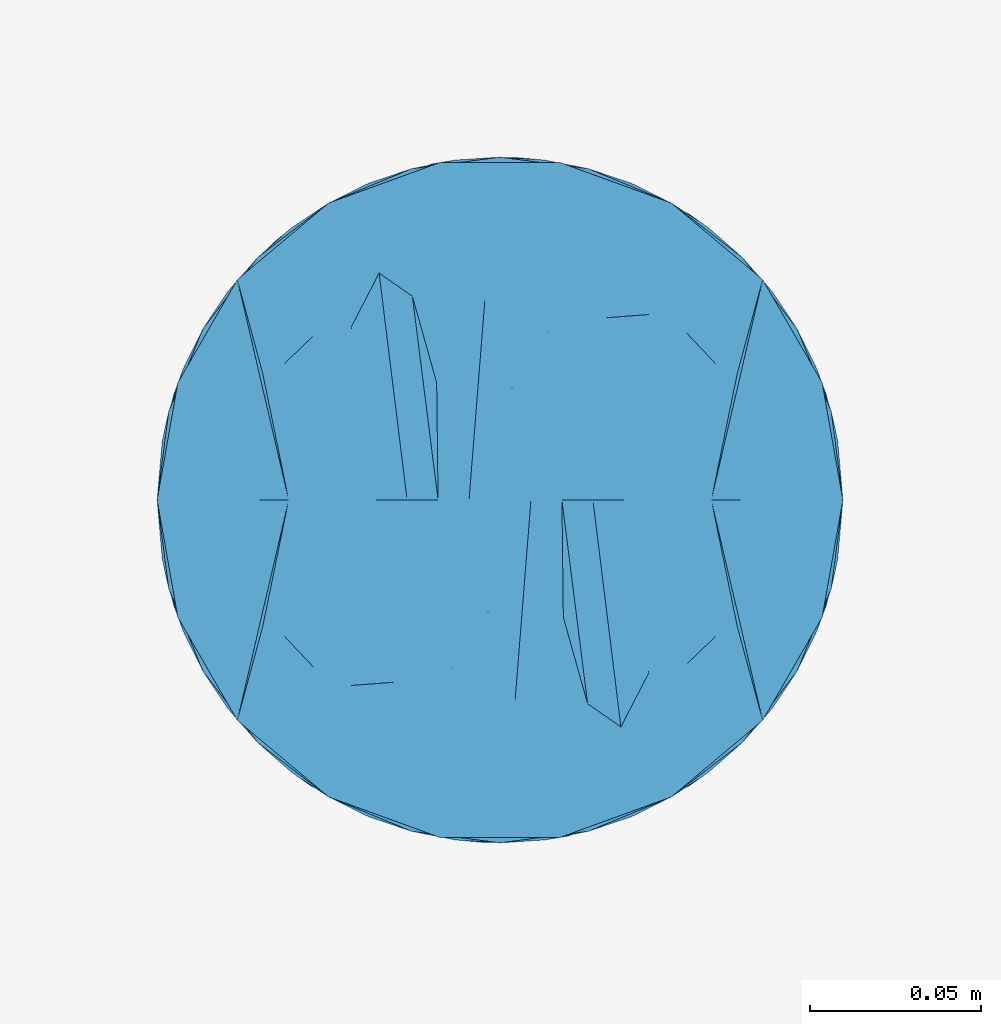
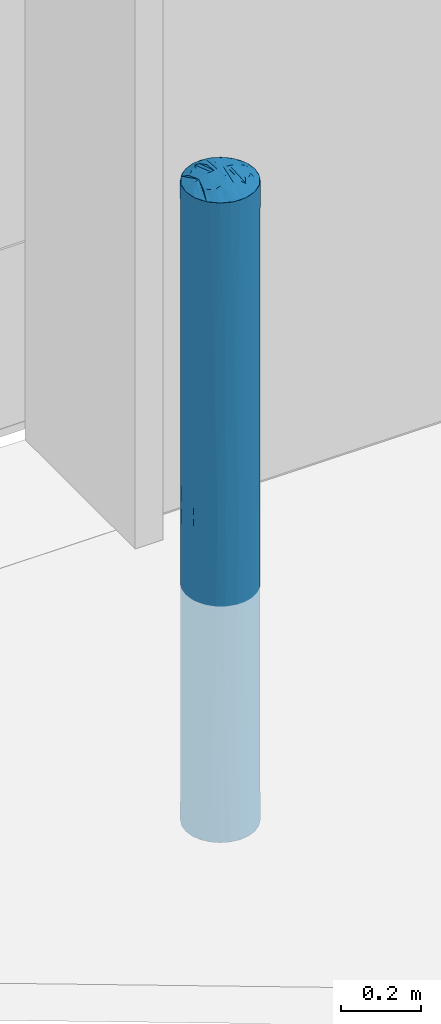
# One storey, part 47 of 77: 1 discrete accessory.
"""IFC2X3 building model written with IfcOpenShell, lengths in millimetres."""

import ifcopenshell
import ifcopenshell.guid

model = None  # the IFC model being written
_history = None  # IfcOwnerHistory: only IFC2X3 demands one
_inside = {}  # id of a spatial element -> (the spatial element, [elements in it])
_under = {}  # id of a project, library or spatial element -> (it, [spatial elements below it])
_declared = {}  # id of a project -> (the project, [libraries it declares])
_typed = {}  # id of a type object -> (the type object, [elements of that type])
_made_of = {}  # id of a material, layer set ... -> (it, [elements and type objects made of it])


def new_model(schema):
    """Start an empty IFC model of exactly this schema.

    Asked for "IFC4X3", IfcOpenShell would pick the latest addendum, in which some entities
    have other attributes; the version numbers below select the first issue.
    IFC2X3 requires an IfcOwnerHistory on every rooted entity: one is made here for all.
    """
    global model, _history
    if schema == "IFC4X3":
        model = ifcopenshell.file(schema_version=(4, 3, 0, 0))
    else:
        model = ifcopenshell.file(schema=schema)
    _inside.clear()
    _under.clear()
    _declared.clear()
    _typed.clear()
    _made_of.clear()
    _history = None
    if model.schema == "IFC2X3":
        org = make("IfcOrganization", Name="unknown")
        user = make(
            "IfcPersonAndOrganization",
            ThePerson=make("IfcPerson", FamilyName="unknown"),
            TheOrganization=org,
        )
        app = make(
            "IfcApplication",
            ApplicationDeveloper=org,
            Version="unknown",
            ApplicationFullName="unknown",
            ApplicationIdentifier="unknown",
        )
        _history = make(
            "IfcOwnerHistory",
            OwningUser=user,
            OwningApplication=app,
            ChangeAction="ADDED",
            CreationDate=0,
        )
    return model


def make(cls, **values):
    """One entity of the class cls with the attributes given. An attribute that is None is left unset."""
    return model.create_entity(
        cls, **{name: value for name, value in values.items() if value is not None}
    )


def entity(cls, *values):
    """Any entity or typed value of the class cls, its attributes in the order of the schema. None: left unset."""
    e = model.create_entity(cls)
    for i, value in enumerate(values):
        if value is not None:
            e[i] = value
    return e


def rooted(cls, **values):
    """An entity with a GlobalId (a new one), such as an element, a storey or a relation."""
    return make(cls, GlobalId=ifcopenshell.guid.new(), OwnerHistory=_history, **values)


def si_unit(unit_type, name, prefix=None):
    """IfcSIUnit, for example si_unit("LENGTHUNIT", "METRE", prefix="MILLI")."""
    return make("IfcSIUnit", UnitType=unit_type, Prefix=prefix, Name=name)


def converted_unit(unit_type, name, factor, base, dimensions=None, offset=None):
    """IfcConversionBasedUnit, such as the inch: factor (a typed value) times the base unit."""
    return make(
        "IfcConversionBasedUnit"
        if offset is None
        else "IfcConversionBasedUnitWithOffset",
        ConversionOffset=offset,
        Dimensions=None
        if dimensions is None
        else entity("IfcDimensionalExponents", *dimensions),
        UnitType=unit_type,
        Name=name,
        ConversionFactor=make(
            "IfcMeasureWithUnit", ValueComponent=factor, UnitComponent=base
        ),
    )


def derived_unit(unit_type, elements):
    """IfcDerivedUnit: a product of units, each with its exponent."""
    return make(
        "IfcDerivedUnit",
        Elements=[
            make("IfcDerivedUnitElement", Unit=unit, Exponent=power)
            for unit, power in elements
        ],
        UnitType=unit_type,
    )


def assignment(units):
    """IfcUnitAssignment: the units of a project."""
    return None if units is None else make("IfcUnitAssignment", Units=units)


def point(xyz):
    """IfcCartesianPoint."""
    return None if xyz is None else make("IfcCartesianPoint", Coordinates=xyz)


def direction(xyz):
    """IfcDirection."""
    return None if xyz is None else make("IfcDirection", DirectionRatios=xyz)


def frame(location, z_axis=None, x_axis=None):
    """IfcAxis2Placement3D, a coordinate frame: its origin and axes. An axis left out is left unset."""
    return make(
        "IfcAxis2Placement3D",
        Location=point(location),
        Axis=direction(z_axis),
        RefDirection=direction(x_axis),
    )


def origin():
    """The frame at (0, 0, 0) with its axes left unset."""
    return frame((0.0, 0.0, 0.0))


def place(relative_to, where):
    """IfcLocalPlacement: puts the frame where relative to a parent placement (None: the world)."""
    return make(
        "IfcLocalPlacement", PlacementRelTo=relative_to, RelativePlacement=where
    )


def context(
    kind, dimensions, precision=None, world=None, true_north=None, identifier=None
):
    """IfcGeometricRepresentationContext, for example the 3D "Model" context."""
    return make(
        "IfcGeometricRepresentationContext",
        ContextIdentifier=identifier,
        ContextType=kind,
        CoordinateSpaceDimension=dimensions,
        Precision=precision,
        WorldCoordinateSystem=world,
        TrueNorth=true_north,
    )


def subcontext(parent, identifier, kind, view, scale=None):
    """IfcGeometricRepresentationSubContext, for example "Body" below "Model"."""
    return make(
        "IfcGeometricRepresentationSubContext",
        ContextIdentifier=identifier,
        ContextType=kind,
        ParentContext=parent,
        TargetScale=scale,
        TargetView=view,
    )


def project(units=None, contexts=None):
    """IfcProject with its units and contexts."""
    return rooted(
        "IfcProject",
        Name="project",
        RepresentationContexts=contexts,
        UnitsInContext=assignment(units),
    )


def spatial(cls, under=None, at=None, **own):
    """A site, building, storey or space (cls), placed at a placement, below another one or the project."""
    s = rooted(cls, ObjectPlacement=at, **own)
    if under is not None:
        _under.setdefault(under.id(), (under, []))[1].append(s)
    return s


def faces_of(points, faces, orient=None, outer=None):
    """IfcFace entities. A face is a list of loops; a loop is a list of indices into points, from 0.

    orient and outer hold one flag for each loop. By default every Orientation is true, the
    first loop of a face is its IfcFaceOuterBound and the others are IfcFaceBound.
    """
    made = []
    for i, loops in enumerate(faces):
        bounds = []
        for j, loop in enumerate(loops):
            is_outer = j == 0 if outer is None else outer[i][j]
            bounds.append(
                make(
                    "IfcFaceOuterBound" if is_outer else "IfcFaceBound",
                    Bound=make("IfcPolyLoop", Polygon=[points[k] for k in loop]),
                    Orientation=True if orient is None else orient[i][j],
                )
            )
        made.append(make("IfcFace", Bounds=bounds))
    return made


def faceted_brep(points, faces, orient=None, outer=None, voids=None):
    """IfcFacetedBrep: a solid bounded by flat faces; with voids (closed shells), ...WithVoids."""
    shared = [point(p) for p in points]
    hull = make("IfcClosedShell", CfsFaces=faces_of(shared, faces, orient, outer))
    if voids is None:
        return make("IfcFacetedBrep", Outer=hull)
    return make(
        "IfcFacetedBrepWithVoids",
        Outer=hull,
        Voids=[
            make(cls, CfsFaces=faces_of(shared, fs, o, b)) for cls, fs, o, b in voids
        ],
    )


def shape(context_of_items, identifier, shape_type, items):
    """IfcShapeRepresentation: the items that make up one representation, for example the "Body"."""
    return make(
        "IfcShapeRepresentation",
        ContextOfItems=context_of_items,
        RepresentationIdentifier=identifier,
        RepresentationType=shape_type,
        Items=items,
    )


def source(mapping_origin, context_of_items, identifier, shape_type, items):
    """IfcRepresentationMap: a shape defined once, which mapped items show again and again."""
    return make(
        "IfcRepresentationMap",
        MappingOrigin=mapping_origin,
        MappedRepresentation=shape(context_of_items, identifier, shape_type, items),
    )


def transform(
    local_origin,
    x_axis=None,
    y_axis=None,
    z_axis=None,
    scale=None,
    scale2=None,
    scale3=None,
    uniform=True,
):
    """IfcCartesianTransformationOperator3D, or its non-uniform kind. x_axis, y_axis, z_axis: its Axis1, 2, 3."""
    if uniform:
        return make(
            "IfcCartesianTransformationOperator3D",
            Axis1=direction(x_axis),
            Axis2=direction(y_axis),
            LocalOrigin=point(local_origin),
            Scale=scale,
            Axis3=direction(z_axis),
        )
    return make(
        "IfcCartesianTransformationOperator3DnonUniform",
        Axis1=direction(x_axis),
        Axis2=direction(y_axis),
        LocalOrigin=point(local_origin),
        Scale=scale,
        Axis3=direction(z_axis),
        Scale2=scale2,
        Scale3=scale3,
    )


def mapped(mapping_source, mapping_target):
    """IfcMappedItem: shows the shape of a source again, moved by a transform."""
    return make(
        "IfcMappedItem", MappingSource=mapping_source, MappingTarget=mapping_target
    )


def material(Name=None, Category=None):
    """IfcMaterial."""
    return make("IfcMaterial", Name=Name, Category=Category)


def made_of(thing, what):
    """Note that an element or type object is made of a material, layer set ...; save() writes the relation."""
    if what is not None:
        _made_of.setdefault(what.id(), (what, []))[1].append(thing)
    return thing


def type_object(cls, material=None, **own):
    """A type object (cls), such as IfcWallType, which elements share."""
    return made_of(rooted(cls, **own), material)


def type_shapes(of_type, sources):
    """Give a type object the sources (RepresentationMaps) that its elements show as mapped items."""
    of_type.RepresentationMaps = sources


def element(
    cls,
    number,
    at=None,
    inside=None,
    cuts=None,
    type_object=None,
    material=None,
    context=None,
    identifier="Body",
    shape_type=None,
    held_by="IfcProductDefinitionShape",
    body=None,
    shapes=None,
    **own,
):
    """One element of the class cls, such as IfcWall. Its Tag is "e" and its number.

    at: its placement. inside: the storey or other place that contains it. cuts: it is an
    opening in that element (IfcRelVoidsElement). A single representation is given by context,
    identifier, shape_type and body (its items); several are given by shapes. held_by: the class
    of the entity that holds the representations. save() writes the other relations.
    """
    e = rooted(cls, Tag="e%d" % number, ObjectPlacement=at, **own)
    if body is not None:
        shapes = [shape(context, identifier, shape_type, body)]
    if shapes is not None:
        e.Representation = make(held_by, Representations=shapes)
    if inside is not None:
        _inside.setdefault(inside.id(), (inside, []))[1].append(e)
    if cuts is not None:
        rooted(
            "IfcRelVoidsElement", RelatingBuildingElement=cuts, RelatedOpeningElement=e
        )
    if type_object is not None:
        _typed.setdefault(type_object.id(), (type_object, []))[1].append(e)
    return made_of(e, material)


def aggregate(whole, parts):
    """IfcRelAggregates: a whole, such as a stair, and the parts it consists of."""
    return rooted("IfcRelAggregates", RelatingObject=whole, RelatedObjects=parts)


def save(model, path):
    """Write the relations noted so far, then the file.

    IfcRelAggregates (storeys below a building ...), IfcRelContainedInSpatialStructure (elements
    in a storey), IfcRelDefinesByType, IfcRelAssociatesMaterial and IfcRelDeclares: one each for
    every whole, place, type object, material and project.
    """
    for whole, parts in _under.values():
        aggregate(whole, parts)
    for where, things in _inside.values():
        rooted(
            "IfcRelContainedInSpatialStructure",
            RelatedElements=things,
            RelatingStructure=where,
        )
    for kind, things in _typed.values():
        rooted("IfcRelDefinesByType", RelatedObjects=things, RelatingType=kind)
    for what, things in _made_of.values():
        rooted("IfcRelAssociatesMaterial", RelatedObjects=things, RelatingMaterial=what)
    for by, libraries in _declared.values():
        rooted("IfcRelDeclares", RelatingContext=by, RelatedDefinitions=libraries)
    model.write(path)


model = new_model("IFC2X3")

# Units and contexts
model_context = context("Model", 3, precision=0.01, world=origin(), true_north=direction((6.12303176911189e-17, 1.0)))
body_context = subcontext(model_context, "Body", "Model", "MODEL_VIEW")
ifc_project = project(units=[si_unit("LENGTHUNIT", "METRE", prefix="MILLI"), si_unit("AREAUNIT", "SQUARE_METRE"), si_unit("VOLUMEUNIT", "CUBIC_METRE"), converted_unit("PLANEANGLEUNIT", "DEGREE", entity("IfcRatioMeasure", 0.0174532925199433), si_unit("PLANEANGLEUNIT", "RADIAN"), dimensions=[0, 0, 0, 0, 0, 0, 0]), si_unit("MASSUNIT", "GRAM", prefix="KILO"), derived_unit("MASSDENSITYUNIT", [(si_unit("MASSUNIT", "GRAM", prefix="KILO"), 1), (si_unit("LENGTHUNIT", "METRE"), -3)]), si_unit("TIMEUNIT", "SECOND"), si_unit("FREQUENCYUNIT", "HERTZ"), si_unit("THERMODYNAMICTEMPERATUREUNIT", "DEGREE_CELSIUS"), derived_unit("THERMALTRANSMITTANCEUNIT", [(si_unit("MASSUNIT", "GRAM", prefix="KILO"), 1), (si_unit("THERMODYNAMICTEMPERATUREUNIT", "KELVIN"), -1), (si_unit("TIMEUNIT", "SECOND"), -3)]), derived_unit("VOLUMETRICFLOWRATEUNIT", [(si_unit("LENGTHUNIT", "METRE"), 3), (si_unit("TIMEUNIT", "SECOND"), -1)]), si_unit("ELECTRICCURRENTUNIT", "AMPERE"), si_unit("ELECTRICVOLTAGEUNIT", "VOLT"), si_unit("POWERUNIT", "WATT"), si_unit("FORCEUNIT", "NEWTON", prefix="KILO"), si_unit("ILLUMINANCEUNIT", "LUX"), si_unit("LUMINOUSFLUXUNIT", "LUMEN"), si_unit("LUMINOUSINTENSITYUNIT", "CANDELA"), derived_unit("USERDEFINED", [(si_unit("MASSUNIT", "GRAM", prefix="KILO"), -1), (si_unit("LENGTHUNIT", "METRE"), -2), (si_unit("TIMEUNIT", "SECOND"), 3), (si_unit("LUMINOUSFLUXUNIT", "LUMEN"), 1)]), derived_unit("LINEARVELOCITYUNIT", [(si_unit("LENGTHUNIT", "METRE"), 1), (si_unit("TIMEUNIT", "SECOND"), -1)]), si_unit("PRESSUREUNIT", "PASCAL"), derived_unit("USERDEFINED", [(si_unit("LENGTHUNIT", "METRE"), -2), (si_unit("MASSUNIT", "GRAM", prefix="KILO"), 1), (si_unit("TIMEUNIT", "SECOND"), -2)])], contexts=[model_context])

# Site, building, storey
site_placement = place(None, origin())
site = spatial("IfcSite", under=ifc_project, at=site_placement, Name="Default", CompositionType="ELEMENT")
building_placement = place(site_placement, origin())
building = spatial("IfcBuilding", under=site, at=building_placement, CompositionType="ELEMENT")
storey_placement = place(building_placement, origin())
storey = spatial("IfcBuildingStorey", under=building, at=storey_placement, Name="1. KORRUS", CompositionType="ELEMENT", Elevation=0.0)

# Discrete accessory
ifc_material = material(Name="Default New Material-must-varv")
discrete_accessory_type = type_object("IfcDiscreteAccessoryType", Name="ukse-pollar", material=ifc_material)
shared_shape = source(origin(), body_context, "Body", "Brep", [
    faceted_brep([(93.969262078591, -34.2020143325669, 1200.0), (95.8287421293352, -23.6563789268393, 1200.0), (97.6882221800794, -13.1107435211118, 1200.0), (100.0, 0.0, 1200.0), (91.8749158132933, 0.0, 1205.6559032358), (83.7498316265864, 0.0, 1211.3118064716), (76.9390417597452, 0.0, 1216.05282423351), (69.2436158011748, -37.0764107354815, 1215.9880775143), (62.8416939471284, -39.8030161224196, 1218.4526620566), (63.3022221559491, -75.4406506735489, 1200.0), (-91.8749158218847, 0.0, 1205.65590322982), (-100.0, 0.0, 1200.0), (-97.6882221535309, -13.110743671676, 1200.0), (-95.8287421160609, -23.6563790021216, 1200.0), (-93.9692620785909, -34.2020143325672, 1200.0), (-76.9390417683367, 0.0, 1216.05282422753), (-83.7498316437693, 0.0, 1211.31180645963), (76.604444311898, -64.278760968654, 1200.0), (61.6281008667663, 0.0, 1224.0406107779), (85.2868531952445, -49.2403876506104, 1200.0), (4.40844307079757, -58.3778316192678, 1226.30016518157), (9.03191194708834, 0.0, 1237.09268012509), (-3.54862814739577, -32.9400963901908, 1234.4920463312), (44.627798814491, 0.0, 1230.53414834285), (54.6170308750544, -47.6944043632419, 1219.50624940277), (17.3648177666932, -98.4807753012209, 1200.0), (33.6824088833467, -92.5416578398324, 1200.0), (25.5588463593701, -59.4119136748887, 1223.53680168), (50.0, -86.6025403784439, 1200.0), (43.4209832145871, -50.3665618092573, 1222.6504135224), (36.1276477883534, 0.0, 1233.78091712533), (-85.2868531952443, -49.2403876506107, 1200.0), (-70.128251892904, 0.0, 1220.79384199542), (-76.6044443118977, -64.2787609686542, 1200.0), (-61.6281008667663, 0.0, 1224.0406107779), (70.128251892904, 0.0, 1220.79384199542), (-43.3922707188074, -54.0995868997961, 1221.20165944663), (-54.4185160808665, -48.7244133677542, 1219.21017541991), (-50.0, -86.6025403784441, 1200.0), (35.2622305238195, -66.2009236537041, 1218.09661192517), (27.095735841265, 0.0, 1234.88483812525), (-63.3022221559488, -75.4406506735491, 1200.0), (-62.8416940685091, -39.8030246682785, 1218.45265938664), (18.4754636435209, -34.2574490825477, 1233.0588958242), (18.0638238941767, 0.0, 1235.98875912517), (-53.1279498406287, 0.0, 1227.28737956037), (-69.2436179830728, -37.0764202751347, 1215.98807356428), (15.0400910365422, -63.9380091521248, 1223.05106581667), (0.0, -98.4807753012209, 1200.0), (-21.4967364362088, -71.3818883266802, 1218.36002279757), (-31.093916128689, -53.1550996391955, 1224.97270928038), (-33.6824088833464, -92.5416578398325, 1200.0), (-36.1276477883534, 0.0, 1233.78091712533), (-27.095735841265, 0.0, 1234.88483812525), (-13.9644320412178, -48.8776365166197, 1229.32055829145), (53.1279498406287, 0.0, 1227.28737956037), (-44.627798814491, 0.0, 1230.53414834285), (-18.0638238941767, 0.0, 1235.98875912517), (-9.03191194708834, 0.0, 1237.09268012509), (-9.80597558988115, -78.5292492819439, 1215.62108797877), (-17.3648177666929, -98.480775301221, 1200.0), (0.0, 0.0, 1238.19660112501), (-93.9692620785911, 34.2020143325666, 1200.0), (-95.8287421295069, 23.6563789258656, 1200.0), (-97.6882221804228, 13.1107435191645, 1200.0), (50.0, 86.6025403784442, 1200.0), (54.4185175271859, 48.7244091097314, 1219.21017640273), (63.3022221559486, 75.4406506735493, 1200.0), (97.6882221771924, 13.110743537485, 1200.0), (95.8287421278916, 23.6563789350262, 1200.0), (93.9692620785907, 34.2020143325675, 1200.0), (-76.6044443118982, 64.2787609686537, 1200.0), (-69.2436157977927, 37.076410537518, 1215.98807757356), (-85.2868531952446, 49.2403876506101, 1200.0), (-4.40844201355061, 58.377832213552, 1226.30016496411), (3.5486282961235, 32.9400954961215, 1234.4920465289), (-54.6170308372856, 47.6944042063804, 1219.50624947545), (-62.8416938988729, 39.8030161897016, 1218.45266205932), (-17.3648177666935, 98.4807753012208, 1200.0), (-33.6824088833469, 92.5416578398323, 1200.0), (-25.5588462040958, 59.4119134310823, 1223.53680181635), (85.2868531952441, 49.240387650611, 1200.0), (-43.420983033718, 50.3665619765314, 1222.65041351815), (62.8416939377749, 39.803016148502, 1218.45266205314), (43.3922717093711, 54.0995849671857, 1221.20165990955), (-50.0, 86.6025403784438, 1200.0), (-63.3022221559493, 75.4406506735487, 1200.0), (-18.4754634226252, 34.2574489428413, 1233.05889588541), (76.6044443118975, 64.2787609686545, 1200.0), (69.2436157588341, 37.0764105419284, 1215.98807759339), (-35.2622303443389, 66.2009242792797, 1218.09661165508), (-15.0400904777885, 63.938008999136, 1223.05106595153), (0.0, 98.4807753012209, 1200.0), (21.4967358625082, 71.3818881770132, 1218.3600229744), (31.0939160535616, 53.1551002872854, 1224.97270904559), (33.6824088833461, 92.5416578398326, 1200.0), (13.964432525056, 48.8776338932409, 1229.32055915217), (9.80597229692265, 78.5292495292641, 1215.62108807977), (17.3648177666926, 98.480775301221, 1200.0), (0.0, 0.0, 1200.0)], [[[0, 1, 2, 3, 4, 5, 6]], [[7, 8, 9]], [[10, 11, 12, 13, 14, 15, 16]], [[17, 18, 7]], [[0, 6, 19]], [[17, 19, 18]], [[20, 21, 22]], [[23, 24, 8]], [[25, 26, 27]], [[28, 24, 29]], [[29, 24, 30]], [[31, 32, 15]], [[33, 34, 31]], [[35, 19, 6]], [[32, 31, 34]], [[36, 37, 38]], [[39, 29, 40]], [[15, 14, 31]], [[41, 37, 42]], [[21, 43, 44]], [[18, 19, 35]], [[45, 34, 46]], [[38, 37, 41]], [[42, 45, 46]], [[40, 44, 27]], [[43, 20, 47]], [[28, 39, 26]], [[48, 25, 47]], [[49, 50, 51]], [[52, 36, 53]], [[22, 54, 20]], [[29, 30, 40]], [[26, 39, 27]], [[8, 55, 23]], [[9, 24, 28]], [[23, 30, 24]], [[55, 8, 7]], [[9, 8, 24]], [[56, 42, 37]], [[54, 50, 49]], [[50, 53, 36]], [[53, 50, 57]], [[54, 57, 50]], [[38, 51, 36]], [[58, 57, 54]], [[20, 59, 48]], [[52, 37, 36]], [[50, 36, 51]], [[45, 42, 56]], [[37, 52, 56]], [[33, 41, 46]], [[55, 7, 18]], [[17, 7, 9]], [[42, 46, 41]], [[33, 46, 34]], [[27, 43, 47]], [[44, 43, 27]], [[43, 21, 20]], [[47, 25, 27]], [[60, 59, 49]], [[20, 48, 47]], [[27, 39, 40]], [[29, 39, 28]], [[54, 22, 58]], [[61, 58, 22]], [[61, 22, 21]], [[54, 49, 59]], [[60, 49, 51]], [[54, 59, 20]], [[59, 60, 48]], [[62, 63, 64, 11, 10, 16, 15]], [[65, 66, 67]], [[4, 3, 68, 69, 70, 6, 5]], [[71, 34, 72]], [[71, 73, 34]], [[74, 58, 75]], [[56, 76, 77]], [[78, 79, 80]], [[35, 81, 18]], [[82, 76, 52]], [[67, 66, 83]], [[62, 15, 73]], [[70, 81, 6]], [[32, 73, 15]], [[84, 66, 65]], [[85, 76, 82]], [[72, 77, 86]], [[6, 81, 35]], [[58, 87, 57]], [[88, 18, 81]], [[34, 73, 32]], [[55, 18, 89]], [[83, 55, 89]], [[90, 82, 53]], [[53, 57, 80]], [[87, 74, 91]], [[85, 90, 79]], [[92, 78, 91]], [[93, 94, 95]], [[30, 84, 40]], [[75, 96, 74]], [[82, 52, 53]], [[79, 90, 80]], [[77, 45, 56]], [[86, 76, 85]], [[56, 52, 76]], [[45, 77, 72]], [[86, 77, 76]], [[23, 83, 66]], [[96, 94, 93]], [[94, 40, 84]], [[40, 94, 44]], [[96, 44, 94]], [[65, 95, 84]], [[21, 44, 96]], [[74, 97, 92]], [[30, 66, 84]], [[94, 84, 95]], [[55, 83, 23]], [[66, 30, 23]], [[88, 67, 89]], [[45, 72, 34]], [[71, 72, 86]], [[83, 89, 67]], [[88, 89, 18]], [[80, 87, 91]], [[57, 87, 80]], [[87, 58, 74]], [[91, 78, 80]], [[98, 97, 93]], [[74, 92, 91]], [[80, 90, 53]], [[82, 90, 85]], [[96, 75, 21]], [[61, 21, 75]], [[61, 75, 58]], [[96, 93, 97]], [[98, 93, 95]], [[96, 97, 74]], [[97, 98, 92]], [[99, 33, 31]], [[99, 31, 14]], [[99, 14, 13]], [[99, 41, 33]], [[99, 38, 41]], [[99, 51, 38]], [[99, 60, 51]], [[99, 13, 12]], [[99, 12, 11]], [[99, 11, 64]], [[99, 48, 60]], [[99, 25, 48]], [[99, 26, 25]], [[99, 28, 26]], [[99, 9, 28]], [[99, 17, 9]], [[99, 19, 17]], [[99, 0, 19]], [[99, 1, 0]], [[99, 2, 1]], [[99, 3, 2]], [[99, 64, 63]], [[99, 63, 62]], [[99, 62, 73]], [[99, 73, 71]], [[99, 71, 86]], [[99, 86, 85]], [[99, 85, 79]], [[99, 79, 78]], [[99, 78, 92]], [[99, 68, 3]], [[99, 69, 68]], [[99, 70, 69]], [[99, 81, 70]], [[99, 88, 81]], [[99, 67, 88]], [[99, 65, 67]], [[99, 95, 65]], [[99, 98, 95]], [[99, 92, 98]]]),
    faceted_brep([(70.7106781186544, 70.7106781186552, 1200.0), (50.0, 86.6025403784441, 1200.0), (25.8819045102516, 96.592582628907, 1200.0), (0.0, 100.0, 1200.0), (-25.8819045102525, 96.5925826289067, 1200.0), (-50.0, 86.6025403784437, 1200.0), (-70.710678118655, 70.7106781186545, 1200.0), (-86.6025403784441, 50.0, 1200.0), (-96.5925826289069, 25.8819045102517, 1200.0), (-100.0, 0.0, 1200.0), (-96.5925826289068, -25.8819045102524, 1200.0), (-86.6025403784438, -50.0, 1200.0), (-70.7106781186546, -70.7106781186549, 1200.0), (-50.0, -86.602540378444, 1200.0), (-25.8819045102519, -96.5925826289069, 1200.0), (0.0, -100.0, 1200.0), (25.8819045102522, -96.5925826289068, 1200.0), (50.0, -86.6025403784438, 1200.0), (70.7106781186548, -70.7106781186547, 1200.0), (86.6025403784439, -50.0, 1200.0), (96.5925826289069, -25.8819045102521, 1200.0), (100.0, 0.0, 1200.0), (96.5925826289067, 25.8819045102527, 1200.0), (86.6025403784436, 50.0, 1200.0), (50.0, -86.6025403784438, -750.0), (25.8819045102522, -96.5925826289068, -750.0), (0.0, -100.0, -750.0), (-25.8819045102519, -96.5925826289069, -750.0), (-50.0, -86.602540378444, -750.0), (-70.7106781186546, -70.7106781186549, -750.0), (-86.6025403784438, -50.0, -750.0), (-96.5925826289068, -25.8819045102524, -750.0), (-100.0, 0.0, -750.0), (-96.5925826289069, 25.8819045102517, -750.0), (-86.6025403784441, 50.0, -750.0), (-70.710678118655, 70.7106781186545, -750.0), (-50.0, 86.6025403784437, -750.0), (-25.8819045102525, 96.5925826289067, -750.0), (0.0, 100.0, -750.0), (25.8819045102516, 96.592582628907, -750.0), (50.0, 86.6025403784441, -750.0), (70.7106781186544, 70.7106781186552, -750.0), (86.6025403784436, 50.0, -750.0), (96.5925826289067, 25.8819045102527, -750.0), (100.0, 0.0, -750.0), (96.5925826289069, -25.8819045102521, -750.0), (86.6025403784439, -50.0, -750.0), (70.7106781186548, -70.7106781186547, -750.0), (-92.387953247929, 38.2683432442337, -285.980854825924), (-95.1291375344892, 30.8293235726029, 225.0), (-79.3353340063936, 60.8761429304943, 225.0), (-60.8761428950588, 79.3353340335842, -151.214692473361), (-38.2683432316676, 92.3879532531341, -299.59510263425), (60.8761429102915, 79.3353340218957, 601.214692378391), (79.335334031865, 60.8761428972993, 225.0), (55.4391010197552, 83.225633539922, 225.0), (-79.3353340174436, 60.8761429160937, 749.595102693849), (4.65337325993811, 99.8916719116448, 225.0), (13.0526192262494, 99.1444861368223, -269.40187286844), (-13.0526192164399, 99.1444861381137, -151.214692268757), (-38.2683432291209, 92.387953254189, 225.0), (-38.2683432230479, 92.3879532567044, 749.595102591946), (-19.6480455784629, 98.0507741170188, 225.0), (-79.3353340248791, 60.8761429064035, -299.595102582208), (-60.876142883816, 79.3353340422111, 601.214692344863), (60.8761429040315, 79.3353340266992, -151.214692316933), (79.335334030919, 60.8761428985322, -299.595102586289), (-98.5078583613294, 17.2105154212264, -334.254320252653), (-100.0, 0.0, -51.6568483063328), (-100.0, 0.0, 501.662546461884), (-98.507858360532, 17.2105154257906, 784.254320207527), (-92.3879532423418, 38.2683432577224, 735.980854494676), (100.0, 0.0, -51.6591080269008), (95.1291375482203, 30.8293235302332, 225.0), (100.0, 0.0, 501.659108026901), (-55.4391010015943, 83.2256335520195, 225.0), (38.2683432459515, 92.3879532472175, 749.595102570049), (-13.0526192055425, 99.1444861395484, 601.214692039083), (38.2683432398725, 92.3879532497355, -299.595102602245), (92.3879532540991, 38.2683432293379, 735.980854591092), (92.3879532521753, 38.2683432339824, -285.980854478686), (79.335334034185, 60.8761428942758, 749.595102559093), (98.5078583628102, 17.2105154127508, 784.254320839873), (13.0526192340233, 99.1444861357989, 719.401872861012), (98.5078583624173, 17.2105154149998, -334.254320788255), (38.268343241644, 92.3879532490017, 225.0), (98.5078583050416, -17.210515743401, -334.254323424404), (-60.876142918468, -79.3353340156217, -151.214692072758), (-79.3353340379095, -60.8761428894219, -299.595102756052), (79.3353338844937, -60.8761430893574, -299.595101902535), (13.0526191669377, -99.1444861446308, -151.214692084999), (38.2683431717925, -92.3879532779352, -299.595102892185), (38.2683431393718, -92.3879532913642, 225.0), (38.2683431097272, -92.3879533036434, 749.595103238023), (19.6480455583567, -98.0507741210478, 225.0), (-13.0526193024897, -99.1444861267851, 719.401872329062), (60.8761427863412, -79.3353341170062, -151.214692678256), (66.0410934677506, -75.0904386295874, 225.000002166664), (-4.6533732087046, -99.8916719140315, 224.999998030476), (-13.0526192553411, -99.1444861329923, -269.401871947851), (95.1291373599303, -30.829324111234, 225.000013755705), (-95.1291375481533, -30.8293235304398, 225.0), (-98.5078583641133, -17.210515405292, -334.254320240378), (-92.3879532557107, -38.2683432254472, -285.980854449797), (79.3353338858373, -60.8761430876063, 749.595105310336), (79.3353338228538, -60.876143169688, 225.000002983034), (92.3879530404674, -38.2683437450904, -285.980851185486), (-38.2683432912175, -92.3879532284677, 749.595102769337), (92.38795316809, -38.2683434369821, 735.980862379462), (60.8761427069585, -79.3353341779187, 601.214694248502), (13.0526190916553, -99.144486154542, 601.214690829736), (-60.8761429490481, -79.3353339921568, 601.214692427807), (-79.3353340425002, -60.8761428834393, 225.0), (-55.4391010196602, -83.2256335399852, 225.0), (-38.2683432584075, -92.387953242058, -299.595102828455), (-92.3879532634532, -38.268343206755, 735.980854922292), (-79.3353340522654, -60.8761428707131, 749.59510268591), (-98.5078583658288, -17.2105153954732, 784.254320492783), (98.5078583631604, -17.2105154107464, 784.25432452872), (-38.2683432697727, -92.3879532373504, 225.0)], [[[0, 1, 2, 3, 4, 5, 6, 7, 8, 9, 10, 11, 12, 13, 14, 15, 16, 17, 18, 19, 20, 21, 22, 23]], [[24, 25, 26, 27, 28, 29, 30, 31, 32, 33, 34, 35, 36, 37, 38, 39, 40, 41, 42, 43, 44, 45, 46, 47]], [[48, 49, 50]], [[36, 51, 52]], [[53, 54, 55]], [[7, 6, 56]], [[52, 37, 36]], [[57, 58, 59]], [[60, 61, 62, 52]], [[50, 51, 63]], [[50, 56, 64]], [[41, 65, 66]], [[52, 62, 59]], [[48, 34, 33]], [[32, 67, 33]], [[49, 68, 69]], [[63, 35, 34]], [[41, 40, 65]], [[70, 71, 49]], [[72, 73, 74]], [[38, 37, 59]], [[64, 61, 75]], [[76, 2, 1]], [[5, 64, 6]], [[61, 5, 4]], [[4, 77, 61]], [[61, 60, 52, 75]], [[78, 40, 39]], [[39, 38, 58]], [[51, 50, 75]], [[66, 42, 41]], [[79, 73, 54]], [[54, 80, 66]], [[54, 81, 79]], [[22, 82, 79]], [[33, 67, 48]], [[6, 64, 56]], [[21, 82, 22]], [[77, 4, 3]], [[3, 83, 77]], [[42, 80, 43]], [[51, 36, 35]], [[70, 69, 9]], [[68, 67, 32]], [[53, 81, 54]], [[54, 66, 65]], [[84, 72, 44]], [[74, 82, 21]], [[78, 55, 65]], [[1, 0, 53]], [[73, 84, 80]], [[8, 7, 71]], [[81, 0, 23]], [[50, 71, 56]], [[50, 63, 48]], [[59, 58, 38]], [[83, 3, 2]], [[23, 22, 79]], [[1, 53, 76]], [[78, 85, 76, 55]], [[39, 58, 78]], [[57, 83, 85]], [[57, 62, 77]], [[85, 83, 76]], [[85, 78, 58]], [[63, 34, 48]], [[68, 49, 67]], [[8, 71, 70]], [[49, 71, 50]], [[81, 23, 79]], [[74, 73, 82]], [[43, 80, 84]], [[73, 80, 54]], [[37, 52, 59]], [[5, 61, 64]], [[40, 78, 65]], [[2, 76, 83]], [[7, 56, 71]], [[35, 63, 51]], [[42, 66, 80]], [[0, 81, 53]], [[58, 57, 85]], [[57, 77, 83]], [[48, 67, 49]], [[8, 70, 9]], [[69, 70, 49]], [[79, 82, 73]], [[43, 84, 44]], [[72, 84, 73]], [[59, 62, 57]], [[77, 62, 61]], [[64, 75, 50]], [[51, 75, 52]], [[65, 55, 54]], [[53, 55, 76]], [[45, 44, 86]], [[29, 87, 88]], [[89, 47, 46]], [[26, 25, 90]], [[91, 25, 24]], [[92, 93, 94, 91]], [[95, 15, 14]], [[96, 89, 97]], [[98, 99, 90]], [[94, 90, 91]], [[74, 100, 72]], [[101, 102, 103]], [[29, 28, 87]], [[24, 47, 96]], [[104, 19, 18]], [[105, 106, 100]], [[107, 14, 13]], [[108, 20, 19]], [[93, 92, 109]], [[92, 91, 96]], [[93, 17, 16]], [[18, 17, 109]], [[45, 106, 46]], [[16, 110, 93]], [[111, 112, 113]], [[114, 28, 27]], [[89, 105, 104, 97]], [[18, 109, 104]], [[88, 30, 29]], [[115, 101, 112]], [[24, 96, 91]], [[112, 103, 88]], [[112, 116, 115]], [[45, 86, 106]], [[109, 92, 97]], [[9, 117, 10]], [[110, 16, 15]], [[15, 95, 110]], [[116, 12, 11]], [[11, 10, 115]], [[118, 74, 21]], [[111, 116, 112]], [[112, 88, 87]], [[105, 108, 104]], [[114, 113, 87]], [[13, 12, 111]], [[102, 68, 32]], [[69, 117, 9]], [[30, 103, 31]], [[100, 118, 108]], [[10, 117, 115]], [[90, 99, 26]], [[27, 26, 99]], [[68, 101, 69]], [[13, 111, 107]], [[114, 119, 107, 113]], [[27, 99, 114]], [[98, 95, 119]], [[98, 94, 110]], [[119, 95, 107]], [[119, 114, 99]], [[89, 46, 106]], [[72, 100, 86]], [[20, 108, 118]], [[100, 108, 105]], [[116, 11, 115]], [[69, 101, 117]], [[31, 103, 102]], [[101, 103, 112]], [[47, 89, 96]], [[105, 89, 106]], [[19, 104, 108]], [[25, 91, 90]], [[17, 93, 109]], [[28, 114, 87]], [[14, 107, 95]], [[30, 88, 103]], [[12, 116, 111]], [[99, 98, 119]], [[98, 110, 95]], [[106, 86, 100]], [[72, 86, 44]], [[20, 118, 21]], [[74, 118, 100]], [[115, 117, 101]], [[31, 102, 32]], [[68, 102, 101]], [[96, 97, 92]], [[109, 97, 104]], [[90, 94, 98]], [[110, 94, 93]], [[87, 113, 112]], [[111, 113, 107]]]),
])
type_shapes(discrete_accessory_type, [shared_shape])
discrete_accessory_placement = place(storey_placement, frame((28910.0321663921, -750.0, 0.0), z_axis=(0.0, 0.0, 1.0), x_axis=(-1.0, 0.0, 0.0)))
element("IfcDiscreteAccessory", 1, at=discrete_accessory_placement, inside=storey, type_object=discrete_accessory_type, material=ifc_material, Name="ukse-pollar:ukse-pollar", ObjectType="ukse-pollar", context=body_context, shape_type="MappedRepresentation", body=[
    mapped(shared_shape, transform((0.0, 0.0, 0.0), scale=1.0)),
])

save(model, "model.ifc")
